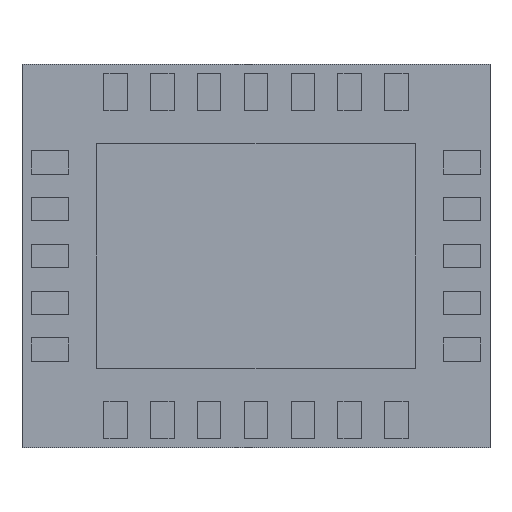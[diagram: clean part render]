
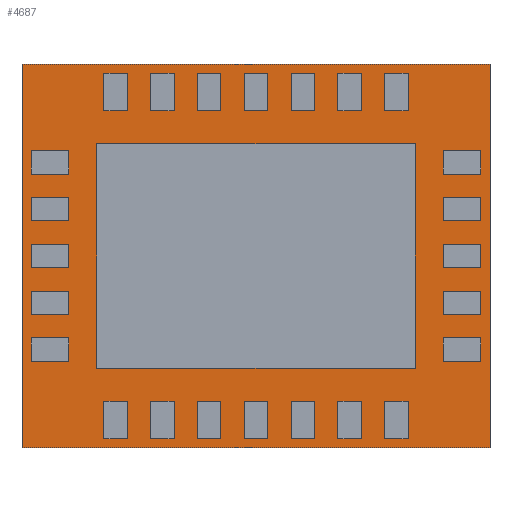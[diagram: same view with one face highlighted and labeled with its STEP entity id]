
A CAD part, front view. The second image highlights one B-rep face of the part: STEP entity #4687.
In plain terms, the highlighted planar face has unit normal (0, -1, 0).
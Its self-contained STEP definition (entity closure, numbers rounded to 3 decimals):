
#4530 = CARTESIAN_POINT ( 'NONE',  ( -2.5, 0.05, -2.05 ) ) ;
#4531 = VERTEX_POINT ( 'NONE', #4530 ) ;
#4532 = CARTESIAN_POINT ( 'NONE',  ( -2.5, 0.05, 2.05 ) ) ;
#4533 = VERTEX_POINT ( 'NONE', #4532 ) ;
#4534 = CARTESIAN_POINT ( 'NONE',  ( -2.5, 0.05, 2.05 ) ) ;
#4535 = DIRECTION ( 'NONE',  ( 0., 0., 1. ) ) ;
#4536 = VECTOR ( 'NONE', #4535, 1000. ) ;
#4537 = LINE ( 'NONE', #4534, #4536 ) ;
#4538 = EDGE_CURVE ( 'NONE', #4531, #4533, #4537, .T. ) ;
#4570 = CARTESIAN_POINT ( 'NONE',  ( 2.5, 0.05, 2.05 ) ) ;
#4571 = VERTEX_POINT ( 'NONE', #4570 ) ;
#4572 = CARTESIAN_POINT ( 'NONE',  ( 2.5, 0.05, 2.05 ) ) ;
#4573 = DIRECTION ( 'NONE',  ( 1., 0., 0. ) ) ;
#4574 = VECTOR ( 'NONE', #4573, 1000. ) ;
#4575 = LINE ( 'NONE', #4572, #4574 ) ;
#4576 = EDGE_CURVE ( 'NONE', #4533, #4571, #4575, .T. ) ;
#4601 = CARTESIAN_POINT ( 'NONE',  ( 2.5, 0.05, -2.05 ) ) ;
#4602 = VERTEX_POINT ( 'NONE', #4601 ) ;
#4603 = CARTESIAN_POINT ( 'NONE',  ( 2.5, 0.05, 2.05 ) ) ;
#4604 = DIRECTION ( 'NONE',  ( 0., 0., -1. ) ) ;
#4605 = VECTOR ( 'NONE', #4604, 1000. ) ;
#4606 = LINE ( 'NONE', #4603, #4605 ) ;
#4607 = EDGE_CURVE ( 'NONE', #4571, #4602, #4606, .T. ) ;
#4632 = CARTESIAN_POINT ( 'NONE',  ( 2.5, 0.05, -2.05 ) ) ;
#4633 = DIRECTION ( 'NONE',  ( -1., 0., 0. ) ) ;
#4634 = VECTOR ( 'NONE', #4633, 1000. ) ;
#4635 = LINE ( 'NONE', #4632, #4634 ) ;
#4636 = EDGE_CURVE ( 'NONE', #4602, #4531, #4635, .T. ) ;
#4676 = ORIENTED_EDGE ( 'NONE', *, *, #4538, .F. ) ;
#4677 = ORIENTED_EDGE ( 'NONE', *, *, #4636, .F. ) ;
#4678 = ORIENTED_EDGE ( 'NONE', *, *, #4607, .F. ) ;
#4679 = ORIENTED_EDGE ( 'NONE', *, *, #4576, .F. ) ;
#4680 = EDGE_LOOP ( 'NONE', ( #4676, #4677, #4678, #4679 ) ) ;
#4681 = FACE_OUTER_BOUND ( 'NONE', #4680, .T. ) ;
#4682 = CARTESIAN_POINT ( 'NONE',  ( 0., 0.05, 0. ) ) ;
#4683 = DIRECTION ( 'NONE',  ( 0., 1., 0. ) ) ;
#4684 = DIRECTION ( 'NONE',  ( 0., 0., 1. ) ) ;
#4685 = AXIS2_PLACEMENT_3D ( 'NONE', #4682, #4683, #4684 ) ;
#4686 = PLANE ( 'NONE', #4685 ) ;
#4687 = ADVANCED_FACE ( 'NONE', ( #4681 ), #4686, .F. ) ;
